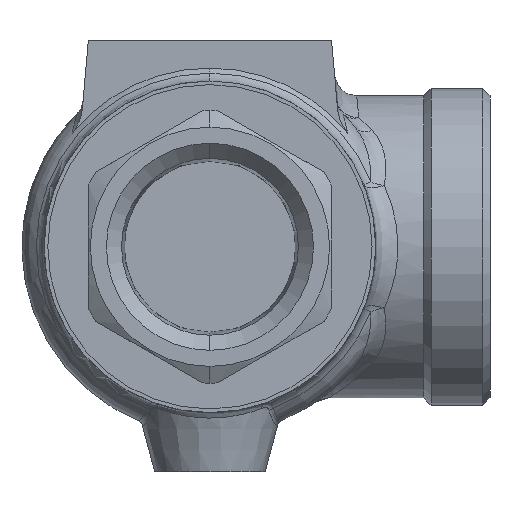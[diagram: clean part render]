
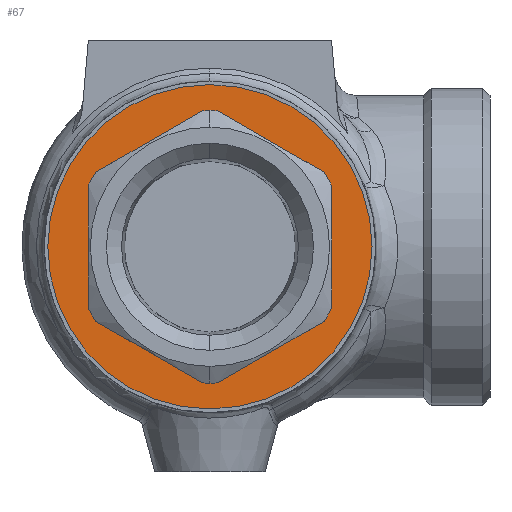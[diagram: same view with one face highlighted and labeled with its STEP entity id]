
A CAD part, front view. The second image highlights one B-rep face of the part: STEP entity #67.
In plain terms, the highlighted planar face has unit normal (0, -1, 0).
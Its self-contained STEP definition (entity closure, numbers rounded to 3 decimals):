
#67 = ADVANCED_FACE ( 'NONE', ( #320, #765 ), #2461, .T. ) ;
#149 = ORIENTED_EDGE ( 'NONE', *, *, #3954, .F. ) ;
#174 = EDGE_CURVE ( 'NONE', #1169, #5375, #4462, .T. ) ;
#195 = VECTOR ( 'NONE', #4021, 1000. ) ;
#202 = CARTESIAN_POINT ( 'NONE',  ( -8.25, -32., -23.816 ) ) ;
#248 = VECTOR ( 'NONE', #302, 1000. ) ;
#288 = EDGE_CURVE ( 'NONE', #1796, #2701, #4107, .T. ) ;
#302 = DIRECTION ( 'NONE',  ( 0., 0., -1. ) ) ;
#320 = FACE_BOUND ( 'NONE', #1091, .T. ) ;
#426 = DIRECTION ( 'NONE',  ( -0.866, 0., 0.5 ) ) ;
#464 = EDGE_CURVE ( 'NONE', #4664, #1229, #4161, .T. ) ;
#471 = ORIENTED_EDGE ( 'NONE', *, *, #1335, .F. ) ;
#617 = ORIENTED_EDGE ( 'NONE', *, *, #820, .F. ) ;
#669 = VERTEX_POINT ( 'NONE', #2859 ) ;
#691 = CARTESIAN_POINT ( 'NONE',  ( 0., -32., 22. ) ) ;
#700 = CIRCLE ( 'NONE', #2978, 18.5 ) ;
#736 = VERTEX_POINT ( 'NONE', #691 ) ;
#745 = DIRECTION ( 'NONE',  ( 0., -1., 0. ) ) ;
#765 = FACE_OUTER_BOUND ( 'NONE', #4376, .T. ) ;
#798 = CIRCLE ( 'NONE', #4773, 18.5 ) ;
#809 = CARTESIAN_POINT ( 'NONE',  ( 16.5, -32., -8.367 ) ) ;
#820 = EDGE_CURVE ( 'NONE', #4443, #4018, #2794, .T. ) ;
#857 = CARTESIAN_POINT ( 'NONE',  ( -15.496, -32., 10.106 ) ) ;
#944 = ORIENTED_EDGE ( 'NONE', *, *, #3797, .F. ) ;
#956 = DIRECTION ( 'NONE',  ( 0., -1., 0. ) ) ;
#1067 = CARTESIAN_POINT ( 'NONE',  ( -16.5, -32., 8.367 ) ) ;
#1091 = EDGE_LOOP ( 'NONE', ( #1667, #4490, #5061, #3918, #471, #2954, #149, #5323, #1777, #2551, #617, #944, #3266 ) ) ;
#1103 = CARTESIAN_POINT ( 'NONE',  ( 0., -32., 0. ) ) ;
#1124 = ORIENTED_EDGE ( 'NONE', *, *, #3059, .F. ) ;
#1128 = DIRECTION ( 'NONE',  ( 0., 0., -1. ) ) ;
#1138 = LINE ( 'NONE', #3714, #1227 ) ;
#1147 = EDGE_CURVE ( 'NONE', #3878, #2650, #798, .T. ) ;
#1164 = CARTESIAN_POINT ( 'NONE',  ( 0., -32., 0. ) ) ;
#1169 = VERTEX_POINT ( 'NONE', #3971 ) ;
#1227 = VECTOR ( 'NONE', #4894, 1000. ) ;
#1229 = VERTEX_POINT ( 'NONE', #5155 ) ;
#1245 = CARTESIAN_POINT ( 'NONE',  ( -16.5, -32., -8.367 ) ) ;
#1283 = CARTESIAN_POINT ( 'NONE',  ( 0., -32., 0. ) ) ;
#1302 = CARTESIAN_POINT ( 'NONE',  ( -1.004, -32., -18.473 ) ) ;
#1335 = EDGE_CURVE ( 'NONE', #4895, #1796, #2711, .T. ) ;
#1398 = AXIS2_PLACEMENT_3D ( 'NONE', #4903, #745, #4067 ) ;
#1494 = AXIS2_PLACEMENT_3D ( 'NONE', #1810, #3777, #3824 ) ;
#1553 = DIRECTION ( 'NONE',  ( -0.866, 0., -0.5 ) ) ;
#1583 = CIRCLE ( 'NONE', #4617, 22. ) ;
#1624 = AXIS2_PLACEMENT_3D ( 'NONE', #4896, #4360, #3629 ) ;
#1667 = ORIENTED_EDGE ( 'NONE', *, *, #4126, .F. ) ;
#1713 = CARTESIAN_POINT ( 'NONE',  ( -8.25, -32., 23.816 ) ) ;
#1777 = ORIENTED_EDGE ( 'NONE', *, *, #3704, .F. ) ;
#1796 = VERTEX_POINT ( 'NONE', #809 ) ;
#1810 = CARTESIAN_POINT ( 'NONE',  ( 0., -32., 0. ) ) ;
#1860 = VECTOR ( 'NONE', #2882, 1000. ) ;
#1936 = CARTESIAN_POINT ( 'NONE',  ( 0., -32., 0. ) ) ;
#1957 = CARTESIAN_POINT ( 'NONE',  ( 0., -32., -18.5 ) ) ;
#1988 = CARTESIAN_POINT ( 'NONE',  ( 16.5, -32., 0. ) ) ;
#2019 = AXIS2_PLACEMENT_3D ( 'NONE', #1103, #2422, #1128 ) ;
#2065 = LINE ( 'NONE', #202, #1860 ) ;
#2154 = DIRECTION ( 'NONE',  ( 0., -1., 0. ) ) ;
#2361 = DIRECTION ( 'NONE',  ( 0., 0., -1. ) ) ;
#2422 = DIRECTION ( 'NONE',  ( 0., -1., 0. ) ) ;
#2461 = PLANE ( 'NONE',  #1624 ) ;
#2548 = CIRCLE ( 'NONE', #1494, 22. ) ;
#2551 = ORIENTED_EDGE ( 'NONE', *, *, #4350, .F. ) ;
#2600 = EDGE_CURVE ( 'NONE', #4019, #736, #1583, .T. ) ;
#2629 = DIRECTION ( 'NONE',  ( 0., 0., -1. ) ) ;
#2650 = VERTEX_POINT ( 'NONE', #1957 ) ;
#2701 = VERTEX_POINT ( 'NONE', #3706 ) ;
#2711 = CIRCLE ( 'NONE', #3661, 18.5 ) ;
#2717 = CARTESIAN_POINT ( 'NONE',  ( -24.75, -32., 4.763 ) ) ;
#2794 = LINE ( 'NONE', #4035, #248 ) ;
#2859 = CARTESIAN_POINT ( 'NONE',  ( 1.004, -32., -18.473 ) ) ;
#2882 = DIRECTION ( 'NONE',  ( 0.866, 0., 0.5 ) ) ;
#2895 = CIRCLE ( 'NONE', #1398, 18.5 ) ;
#2920 = CARTESIAN_POINT ( 'NONE',  ( 0., -32., -22. ) ) ;
#2951 = CARTESIAN_POINT ( 'NONE',  ( 15.496, -32., -10.106 ) ) ;
#2954 = ORIENTED_EDGE ( 'NONE', *, *, #5064, .F. ) ;
#2978 = AXIS2_PLACEMENT_3D ( 'NONE', #1164, #4884, #2361 ) ;
#3059 = EDGE_CURVE ( 'NONE', #736, #4019, #2548, .T. ) ;
#3190 = DIRECTION ( 'NONE',  ( 0., 0., -1. ) ) ;
#3266 = ORIENTED_EDGE ( 'NONE', *, *, #174, .F. ) ;
#3629 = DIRECTION ( 'NONE',  ( 0., 0., -1. ) ) ;
#3661 = AXIS2_PLACEMENT_3D ( 'NONE', #4110, #2154, #4587 ) ;
#3704 = EDGE_CURVE ( 'NONE', #3999, #3878, #1138, .T. ) ;
#3706 = CARTESIAN_POINT ( 'NONE',  ( 16.5, -32., 8.367 ) ) ;
#3714 = CARTESIAN_POINT ( 'NONE',  ( -24.75, -32., -4.763 ) ) ;
#3773 = CIRCLE ( 'NONE', #4279, 18.5 ) ;
#3777 = DIRECTION ( 'NONE',  ( 0., 1., 0. ) ) ;
#3797 = EDGE_CURVE ( 'NONE', #5375, #4443, #3841, .T. ) ;
#3824 = DIRECTION ( 'NONE',  ( 0., 0., 1. ) ) ;
#3841 = CIRCLE ( 'NONE', #4527, 18.5 ) ;
#3878 = VERTEX_POINT ( 'NONE', #1302 ) ;
#3918 = ORIENTED_EDGE ( 'NONE', *, *, #288, .F. ) ;
#3950 = CARTESIAN_POINT ( 'NONE',  ( 15.496, -32., 10.106 ) ) ;
#3954 = EDGE_CURVE ( 'NONE', #2650, #669, #700, .T. ) ;
#3957 = EDGE_CURVE ( 'NONE', #2701, #4664, #4349, .T. ) ;
#3971 = CARTESIAN_POINT ( 'NONE',  ( -1.004, -32., 18.473 ) ) ;
#3994 = DIRECTION ( 'NONE',  ( 0., 0., -1. ) ) ;
#3999 = VERTEX_POINT ( 'NONE', #4634 ) ;
#4018 = VERTEX_POINT ( 'NONE', #1245 ) ;
#4019 = VERTEX_POINT ( 'NONE', #2920 ) ;
#4021 = DIRECTION ( 'NONE',  ( 0., 0., 1. ) ) ;
#4035 = CARTESIAN_POINT ( 'NONE',  ( -16.5, -32., 0. ) ) ;
#4067 = DIRECTION ( 'NONE',  ( 0., 0., -1. ) ) ;
#4079 = ORIENTED_EDGE ( 'NONE', *, *, #2600, .F. ) ;
#4107 = LINE ( 'NONE', #1988, #195 ) ;
#4110 = CARTESIAN_POINT ( 'NONE',  ( 0., -32., 0. ) ) ;
#4121 = DIRECTION ( 'NONE',  ( 0., 1., 0. ) ) ;
#4126 = EDGE_CURVE ( 'NONE', #1229, #1169, #2895, .T. ) ;
#4161 = LINE ( 'NONE', #1713, #4536 ) ;
#4279 = AXIS2_PLACEMENT_3D ( 'NONE', #4678, #956, #2629 ) ;
#4349 = CIRCLE ( 'NONE', #2019, 18.5 ) ;
#4350 = EDGE_CURVE ( 'NONE', #4018, #3999, #3773, .T. ) ;
#4360 = DIRECTION ( 'NONE',  ( 0., -1., 0. ) ) ;
#4376 = EDGE_LOOP ( 'NONE', ( #1124, #4079 ) ) ;
#4443 = VERTEX_POINT ( 'NONE', #1067 ) ;
#4459 = DIRECTION ( 'NONE',  ( 0., -1., 0. ) ) ;
#4462 = LINE ( 'NONE', #2717, #4920 ) ;
#4466 = CARTESIAN_POINT ( 'NONE',  ( 0., -32., 0. ) ) ;
#4490 = ORIENTED_EDGE ( 'NONE', *, *, #464, .F. ) ;
#4527 = AXIS2_PLACEMENT_3D ( 'NONE', #1936, #4459, #3190 ) ;
#4536 = VECTOR ( 'NONE', #426, 1000. ) ;
#4587 = DIRECTION ( 'NONE',  ( 0., 0., -1. ) ) ;
#4617 = AXIS2_PLACEMENT_3D ( 'NONE', #4466, #4121, #4899 ) ;
#4634 = CARTESIAN_POINT ( 'NONE',  ( -15.496, -32., -10.106 ) ) ;
#4664 = VERTEX_POINT ( 'NONE', #3950 ) ;
#4678 = CARTESIAN_POINT ( 'NONE',  ( 0., -32., 0. ) ) ;
#4727 = DIRECTION ( 'NONE',  ( 0., -1., 0. ) ) ;
#4773 = AXIS2_PLACEMENT_3D ( 'NONE', #1283, #4727, #3994 ) ;
#4884 = DIRECTION ( 'NONE',  ( 0., -1., 0. ) ) ;
#4894 = DIRECTION ( 'NONE',  ( 0.866, 0., -0.5 ) ) ;
#4895 = VERTEX_POINT ( 'NONE', #2951 ) ;
#4896 = CARTESIAN_POINT ( 'NONE',  ( -22., -32., 0. ) ) ;
#4899 = DIRECTION ( 'NONE',  ( 0., 0., 1. ) ) ;
#4903 = CARTESIAN_POINT ( 'NONE',  ( 0., -32., 0. ) ) ;
#4920 = VECTOR ( 'NONE', #1553, 1000. ) ;
#5061 = ORIENTED_EDGE ( 'NONE', *, *, #3957, .F. ) ;
#5064 = EDGE_CURVE ( 'NONE', #669, #4895, #2065, .T. ) ;
#5155 = CARTESIAN_POINT ( 'NONE',  ( 1.004, -32., 18.473 ) ) ;
#5323 = ORIENTED_EDGE ( 'NONE', *, *, #1147, .F. ) ;
#5375 = VERTEX_POINT ( 'NONE', #857 ) ;
